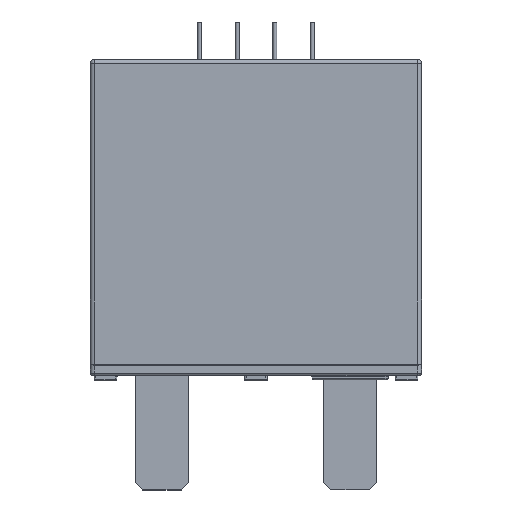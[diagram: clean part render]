
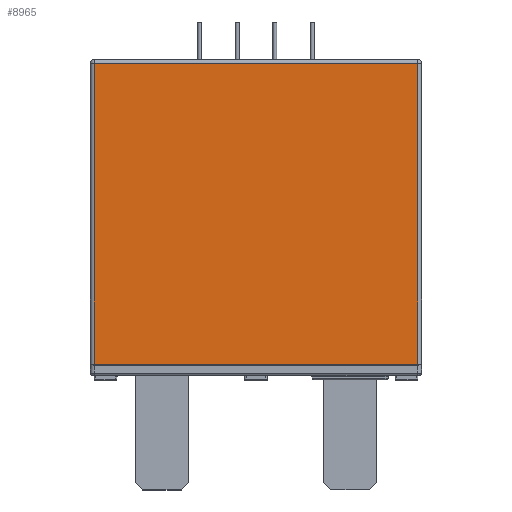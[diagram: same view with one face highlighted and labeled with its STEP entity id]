
A CAD part, top view. The second image highlights one B-rep face of the part: STEP entity #8965.
In plain terms, the highlighted planar face has unit normal (0, 0, 1).
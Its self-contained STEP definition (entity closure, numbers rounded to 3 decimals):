
#92=DIRECTION('',(1.,0.,0.));
#93=VECTOR('',#92,43.);
#94=CARTESIAN_POINT('',(-21.5,1.5,7.3));
#95=LINE('',#94,#93);
#4098=DIRECTION('',(0.,-1.,0.));
#4099=VECTOR('',#4098,40.);
#4100=CARTESIAN_POINT('',(-21.5,41.5,7.3));
#4101=LINE('',#4100,#4099);
#4105=DIRECTION('',(1.,0.,0.));
#4106=VECTOR('',#4105,43.);
#4107=CARTESIAN_POINT('',(-21.5,41.5,7.3));
#4108=LINE('',#4107,#4106);
#4112=DIRECTION('',(0.,-1.,0.));
#4113=VECTOR('',#4112,40.);
#4114=CARTESIAN_POINT('',(21.5,41.5,7.3));
#4115=LINE('',#4114,#4113);
#5018=CARTESIAN_POINT('',(-21.5,1.5,7.3));
#5020=VERTEX_POINT('',#5018);
#5024=CARTESIAN_POINT('',(-21.5,41.5,7.3));
#5025=VERTEX_POINT('',#5024);
#5027=CARTESIAN_POINT('',(21.5,1.5,7.3));
#5029=VERTEX_POINT('',#5027);
#5030=CARTESIAN_POINT('',(21.5,41.5,7.3));
#5031=VERTEX_POINT('',#5030);
#8953=CARTESIAN_POINT('',(-22.,1.5,7.3));
#8954=DIRECTION('',(0.,0.,1.));
#8955=DIRECTION('',(1.,0.,0.));
#8956=AXIS2_PLACEMENT_3D('',#8953,#8954,#8955);
#8957=PLANE('',#8956);
#8958=ORIENTED_EDGE('',*,*,#8864,.F.);
#8960=ORIENTED_EDGE('',*,*,#8959,.T.);
#8961=ORIENTED_EDGE('',*,*,#8945,.T.);
#8962=ORIENTED_EDGE('',*,*,#5182,.F.);
#8963=EDGE_LOOP('',(#8958,#8960,#8961,#8962));
#8964=FACE_OUTER_BOUND('',#8963,.F.);
#8965=ADVANCED_FACE('',(#8964),#8957,.T.);
#5182=EDGE_CURVE('',#5020,#5029,#95,.T.);
#8864=EDGE_CURVE('',#5025,#5020,#4101,.T.);
#8945=EDGE_CURVE('',#5031,#5029,#4115,.T.);
#8959=EDGE_CURVE('',#5025,#5031,#4108,.T.);
